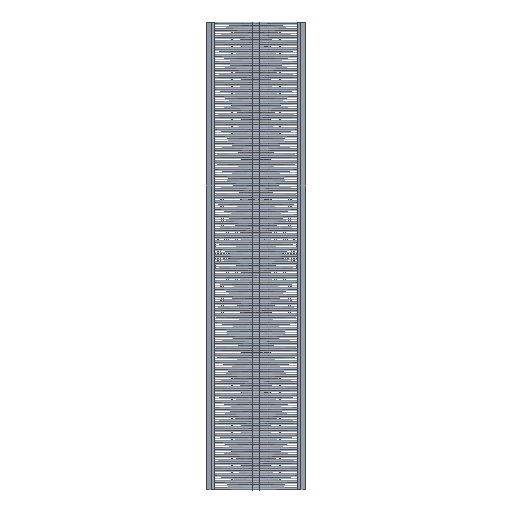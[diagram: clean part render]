
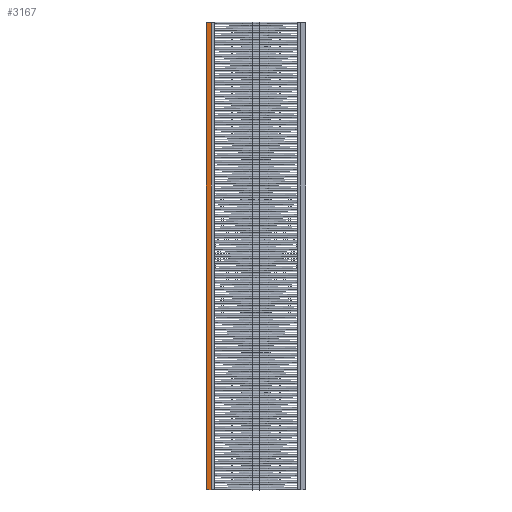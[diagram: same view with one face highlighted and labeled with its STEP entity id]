
A CAD part, front view. The second image highlights one B-rep face of the part: STEP entity #3167.
In plain terms, the highlighted planar face has unit normal (-0.09, -0.996, 0) as drawn and (0, -0.091, 0.996) by its records, which use the part's own axes.
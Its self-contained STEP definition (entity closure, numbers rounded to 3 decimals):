
#3141 = VERTEX_POINT('',#3142);
#3142 = CARTESIAN_POINT('',(-517.,-7.,4.75));
#3148 = EDGE_CURVE('',#3149,#3141,#3151,.T.);
#3149 = VERTEX_POINT('',#3150);
#3150 = CARTESIAN_POINT('',(517.,-7.,4.75));
#3151 = LINE('',#3152,#3153);
#3152 = CARTESIAN_POINT('',(517.,-7.,4.75));
#3153 = VECTOR('',#3154,1.);
#3154 = DIRECTION('',(-1.,-0.,-0.));
#3167 = ADVANCED_FACE('',(#3168),#3193,.F.);
#3168 = FACE_BOUND('',#3169,.T.);
#3169 = EDGE_LOOP('',(#3170,#3178,#3186,#3192));
#3170 = ORIENTED_EDGE('',*,*,#3171,.T.);
#3171 = EDGE_CURVE('',#3141,#3172,#3174,.T.);
#3172 = VERTEX_POINT('',#3173);
#3173 = CARTESIAN_POINT('',(-517.,-18.,3.75));
#3174 = LINE('',#3175,#3176);
#3175 = CARTESIAN_POINT('',(-517.,-7.349,4.718));
#3176 = VECTOR('',#3177,1.);
#3177 = DIRECTION('',(0.,-0.996,-0.091));
#3178 = ORIENTED_EDGE('',*,*,#3179,.F.);
#3179 = EDGE_CURVE('',#3180,#3172,#3182,.T.);
#3180 = VERTEX_POINT('',#3181);
#3181 = CARTESIAN_POINT('',(517.,-18.,3.75));
#3182 = LINE('',#3183,#3184);
#3183 = CARTESIAN_POINT('',(517.,-18.,3.75));
#3184 = VECTOR('',#3185,1.);
#3185 = DIRECTION('',(-1.,-0.,-0.));
#3186 = ORIENTED_EDGE('',*,*,#3187,.F.);
#3187 = EDGE_CURVE('',#3149,#3180,#3188,.T.);
#3188 = LINE('',#3189,#3190);
#3189 = CARTESIAN_POINT('',(517.,-7.349,4.718));
#3190 = VECTOR('',#3191,1.);
#3191 = DIRECTION('',(0.,-0.996,-0.091));
#3192 = ORIENTED_EDGE('',*,*,#3148,.T.);
#3193 = PLANE('',#3194);
#3194 = AXIS2_PLACEMENT_3D('',#3195,#3196,#3197);
#3195 = CARTESIAN_POINT('',(517.,-7.349,4.718));
#3196 = DIRECTION('',(0.,0.091,-0.996));
#3197 = DIRECTION('',(0.,0.996,0.091));
